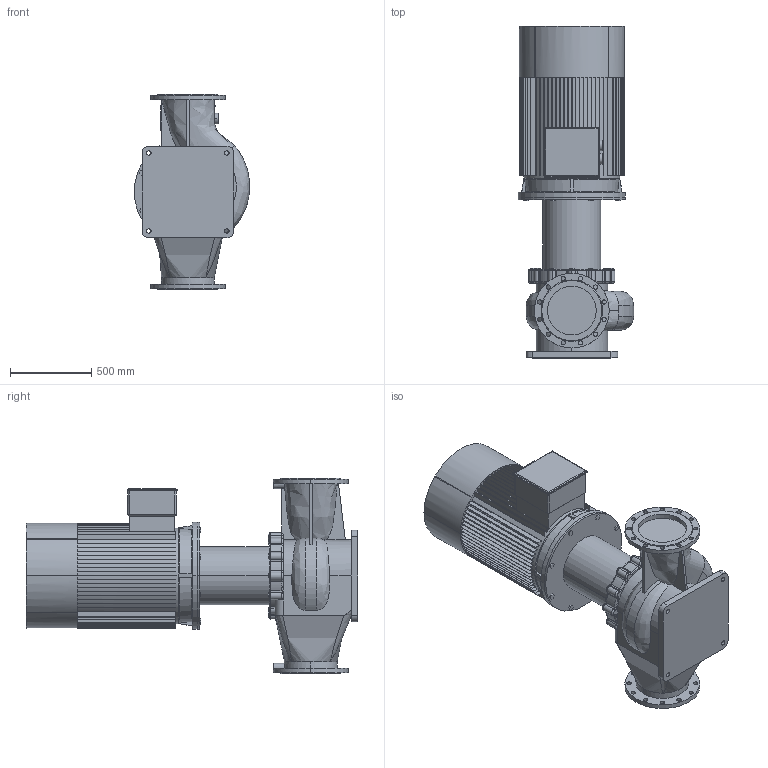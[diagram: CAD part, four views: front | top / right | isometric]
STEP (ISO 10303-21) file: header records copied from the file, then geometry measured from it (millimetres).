
FILE_DESCRIPTION (( 'STEP AP203' ), '1' );
FILE_NAME ('TD300-30_4.STEP', '2022-05-02T18:19:16', ( '' ), ( '' ), 'SwSTEP 2.0', 'SolidWorks 2019', '' );
FILE_SCHEMA (( 'CONFIG_CONTROL_DESIGN' ));
Length unit declared in the file: millimetre
Products named in the file (4): TD300-30_4; Pr_ch 300_TD300-30_4; Fon_300_TD300-30_4; ED_B5_YE2-315S-4 (110)
Assembly tree (3 placements, depth 2):
  TD300-30_4
    Pr_ch 300_TD300-30_4
    Fon_300_TD300-30_4
    ED_B5_YE2-315S-4 (110)
Bounding box: 711.05 x 2042 x 1200 mm (x, y, z)
Volume: 539108215 mm3; surface area: 10303771.9 mm2
Topology: 5 solids, 5 shells, 882 faces, 2433 edges, 1600 vertices
Faces by surface type: plane 552, cylinder 239, torus 48, bspline 28, cone 15
Entity records: 36981 total; most frequent: CARTESIAN_POINT 13449, DIRECTION 4892, ORIENTED_EDGE 4858, EDGE_CURVE 2429, AXIS2_PLACEMENT_3D 1720, VERTEX_POINT 1600, LINE 1452, VECTOR 1452
